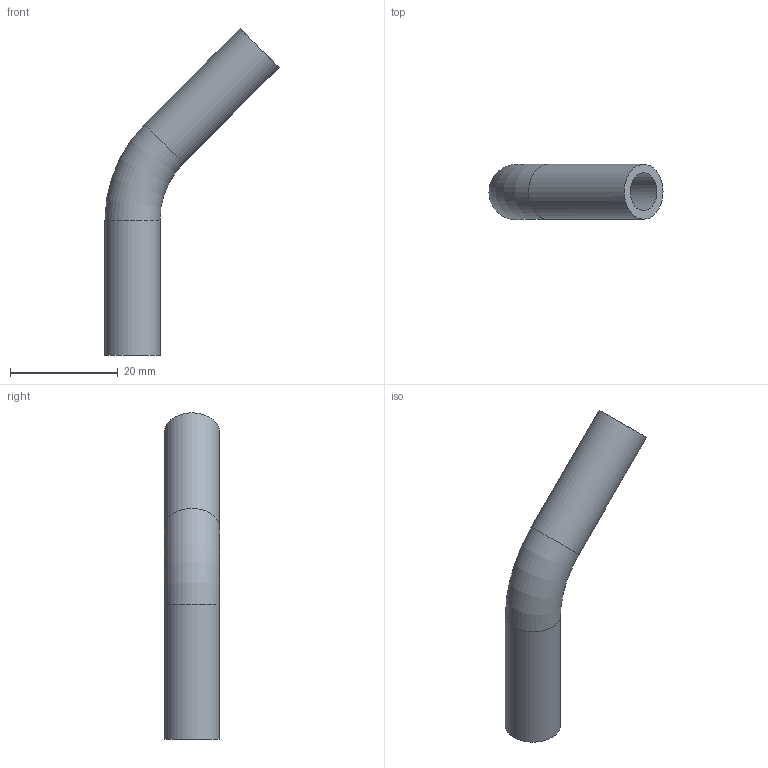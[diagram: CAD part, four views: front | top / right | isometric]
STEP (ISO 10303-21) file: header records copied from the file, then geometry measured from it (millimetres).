
FILE_DESCRIPTION(/* description */ ('Elbow 10,2x1,6_45 deg'),/* implementation_level */ '2;1');
FILE_NAME(/* name */ 'L:\Normteile\N0001 - Elbow\N0001_003 Elbow 45° - WW\N0001_003_001 - DW (BMT)\E045_10,2x1,6_MR20_L33,3_00.stp',/* time_stamp */ '2020-12-16T12:49:06+01:00',/* author */ ('ahenning'),/* organization */ ('Dockweiler AG An der Autobahn 10/20 Germany 19306 Neustadt-Glewe'),/* preprocessor_version */ 'ST-DEVELOPER v18.1',/* originating_system */ 'Autodesk Inventor 2020',/* authorisation */ '');
FILE_SCHEMA (('AUTOMOTIVE_DESIGN { 1 0 10303 214 3 1 1 }'));
Length unit declared in the file: millimetre
Products named in the file (1): N0001_003_001_116
Bounding box: 32.25 x 10.2 x 60.45 mm (x, y, z)
Volume: 2841.8 mm3; surface area: 3638.7 mm2
Topology: 1 solids, 1 shells, 8 faces, 17 edges, 14 vertices
Faces by surface type: cylinder 4, torus 2, plane 2
Full cylindrical faces by diameter (mm): 7 x2, 10.2 x2
Entity records: 268 total; most frequent: DIRECTION 44, CARTESIAN_POINT 38, ORIENTED_EDGE 28, AXIS2_PLACEMENT_3D 20, EDGE_CURVE 14, CIRCLE 11, EDGE_LOOP 10, FACE_OUTER_BOUND 8
